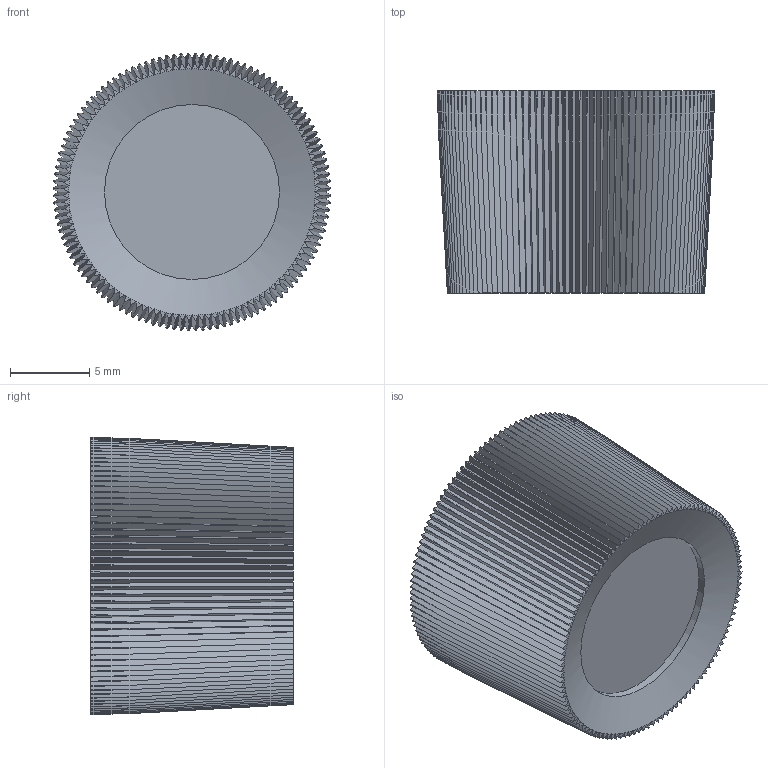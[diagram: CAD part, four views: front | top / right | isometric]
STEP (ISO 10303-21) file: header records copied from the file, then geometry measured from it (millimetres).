
FILE_DESCRIPTION(/* description */ ('STEP AP242 Edition 2','CAx-IF Rec.Pracs.---Representation and Presentation of Product Manufacturing Information (PMI)---4.0---2014-10-13','CAx-IF Rec.Pracs.---3D Tessellated Geometry---0.4---2014-09-14','2;1','CAx-IF Rec.Pracs.---User Defined Attributes---1.5---2016-08-15'),/* implementation_level */ '2;1');
FILE_NAME(/* name */ 'Assembly 1',/* time_stamp */ '2026-04-02T09:55:31Z',/* author */ (''),/* organization */ (''),/* preprocessor_version */ 'ST-DEVELOPER v20',/* originating_system */ 'ONSHAPE BY PTC INC, 1.212',/* authorisation */ ' ');
FILE_SCHEMA (('AP242_MANAGED_MODEL_BASED_3D_ENGINEERING_MIM_LF { 1 0 10303 442 3 1 4 }'));
Length unit declared in the file: metre
Products named in the file (1): Part 1
Bounding box: 17.47 x 12.75 x 17.47 mm (x, y, z)
Volume: 2373.8 mm3; surface area: 1960.4 mm2
Topology: 1 solids, 1 shells, 490 faces, 1457 edges, 971 vertices
Faces by surface type: plane 366, cone 121, cylinder 3
Full cylindrical faces by diameter (mm): 11.025 x1
Entity records: 16553 total; most frequent: DIRECTION 2922, CARTESIAN_POINT 2915, ORIENTED_EDGE 2908, EDGE_CURVE 1454, AXIS2_PLACEMENT_3D 977, VERTEX_POINT 970, LINE 968, VECTOR 968
